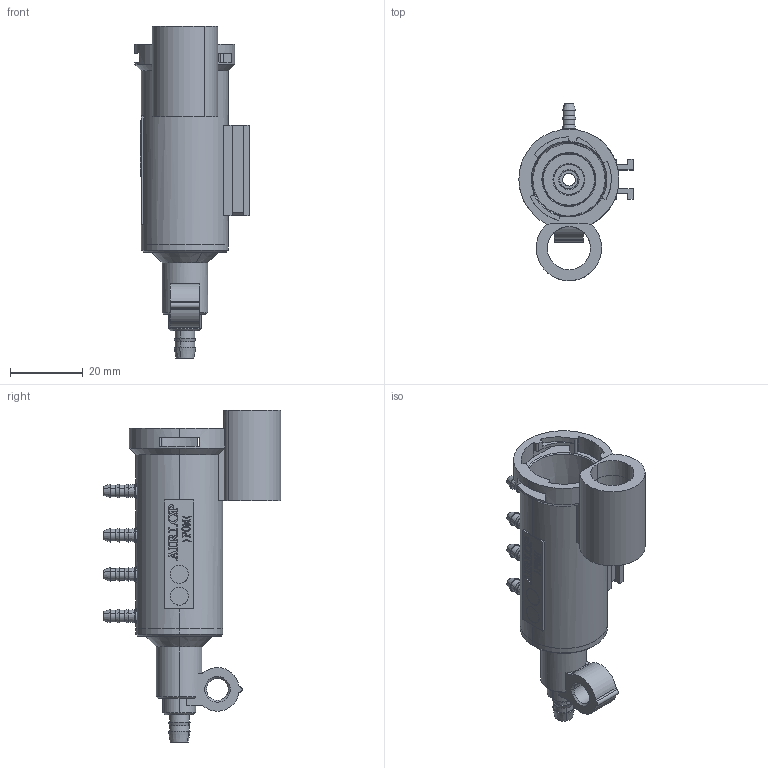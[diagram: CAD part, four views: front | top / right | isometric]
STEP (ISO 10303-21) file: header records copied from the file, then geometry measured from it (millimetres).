
FILE_DESCRIPTION(('CATIA V5 STEP Exchange'),'2;1');
FILE_NAME('C:\Users\Administrator\Desktop\H6（3.0平台）\VDC阀\2.过程数据\膜片式\阀体.stp','2021-02-25T01:26:37+00:00',('none'),('none'),'CATIA Version 5 Release 20 GA (IN-10)','CATIA V5 STEP AP214','none');
FILE_SCHEMA(('AUTOMOTIVE_DESIGN { 1 0 10303 214 1 1 1 1 }'));
Length unit declared in the file: millimetre
Products named in the file (1): BPC0010078
Bounding box: 31.5 x 49 x 91.5 mm (x, y, z)
Volume: 14834.6 mm3; surface area: 14812.9 mm2
Topology: 1 solids, 1 shells, 1356 faces, 3865 edges, 2560 vertices
Faces by surface type: plane 1156, cylinder 116, cone 65, torus 18, extrusion 1
Entity records: 53244 total; most frequent: CARTESIAN_POINT 9152, ORIENTED_EDGE 7730, DIRECTION 6196, EDGE_CURVE 3865, VECTOR 3440, LINE 3439, VERTEX_POINT 2560, AXIS2_PLACEMENT_3D 1534
